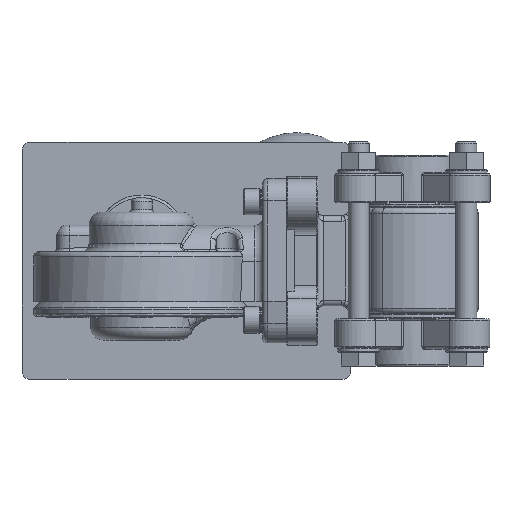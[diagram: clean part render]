
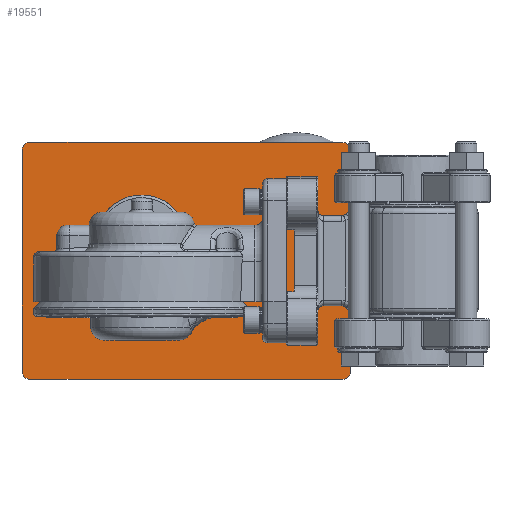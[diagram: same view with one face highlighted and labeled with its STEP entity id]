
A CAD part, left-side view. The second image highlights one B-rep face of the part: STEP entity #19551.
In plain terms, the highlighted planar face has unit normal (-1, 0, 0) as drawn and (0, 0, -1) by its records, which use the part's own axes.
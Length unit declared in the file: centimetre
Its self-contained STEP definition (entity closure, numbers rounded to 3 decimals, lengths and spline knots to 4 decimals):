
#3441=VECTOR('',#25259,1.);
#3442=VECTOR('',#25260,1.);
#3443=VECTOR('',#25263,1.);
#3444=VECTOR('',#25266,1.);
#3445=VECTOR('',#25269,1.);
#3446=VECTOR('',#25272,1.);
#3447=VECTOR('',#25275,1.);
#4576=LINE('',#44477,#3441);
#4577=LINE('',#44479,#3442);
#4578=LINE('',#44483,#3443);
#4579=LINE('',#44487,#3444);
#4580=LINE('',#44491,#3445);
#4581=LINE('',#44496,#3446);
#4582=LINE('',#44500,#3447);
#5778=PLANE('',#21256);
#7307=VERTEX_POINT('',#44462);
#7309=VERTEX_POINT('',#44467);
#7311=VERTEX_POINT('',#44472);
#7312=VERTEX_POINT('',#44475);
#7313=VERTEX_POINT('',#44476);
#7314=VERTEX_POINT('',#44478);
#7315=VERTEX_POINT('',#44480);
#7316=VERTEX_POINT('',#44482);
#7317=VERTEX_POINT('',#44484);
#7318=VERTEX_POINT('',#44486);
#7319=VERTEX_POINT('',#44488);
#7320=VERTEX_POINT('',#44490);
#7321=VERTEX_POINT('',#44492);
#7322=VERTEX_POINT('',#44494);
#7323=VERTEX_POINT('',#44495);
#7324=VERTEX_POINT('',#44497);
#7325=VERTEX_POINT('',#44499);
#8268=CIRCLE('',#21249,0.3019);
#8270=CIRCLE('',#21252,0.3019);
#8272=CIRCLE('',#21255,0.8983);
#8273=CIRCLE('',#21257,0.2);
#8274=CIRCLE('',#21258,0.3);
#8275=CIRCLE('',#21259,0.3);
#8276=CIRCLE('',#21260,0.3);
#8277=CIRCLE('',#21261,0.3);
#8278=CIRCLE('',#21262,0.2);
#10626=EDGE_CURVE('',#7307,#7307,#8268,.T.);
#10628=EDGE_CURVE('',#7309,#7309,#8270,.T.);
#10630=EDGE_CURVE('',#7311,#7311,#8272,.T.);
#10631=EDGE_CURVE('',#7312,#7313,#8273,.T.);
#10632=EDGE_CURVE('',#7312,#7314,#4576,.T.);
#10633=EDGE_CURVE('',#7315,#7314,#4577,.T.);
#10634=EDGE_CURVE('',#7316,#7315,#8274,.T.);
#10635=EDGE_CURVE('',#7317,#7316,#4578,.T.);
#10636=EDGE_CURVE('',#7318,#7317,#8275,.T.);
#10637=EDGE_CURVE('',#7319,#7318,#4579,.T.);
#10638=EDGE_CURVE('',#7320,#7319,#8276,.T.);
#10639=EDGE_CURVE('',#7321,#7320,#4580,.T.);
#10640=EDGE_CURVE('',#7322,#7321,#8277,.T.);
#10641=EDGE_CURVE('',#7323,#7322,#4577,.T.);
#10642=EDGE_CURVE('',#7323,#7324,#4581,.T.);
#10643=EDGE_CURVE('',#7325,#7324,#8278,.T.);
#10644=EDGE_CURVE('',#7325,#7313,#4582,.T.);
#15407=ORIENTED_EDGE('',*,*,#10626,.T.);
#15408=ORIENTED_EDGE('',*,*,#10628,.T.);
#15409=ORIENTED_EDGE('',*,*,#10630,.T.);
#15410=ORIENTED_EDGE('',*,*,#10631,.F.);
#15411=ORIENTED_EDGE('',*,*,#10632,.T.);
#15412=ORIENTED_EDGE('',*,*,#10633,.F.);
#15413=ORIENTED_EDGE('',*,*,#10634,.F.);
#15414=ORIENTED_EDGE('',*,*,#10635,.F.);
#15415=ORIENTED_EDGE('',*,*,#10636,.F.);
#15416=ORIENTED_EDGE('',*,*,#10637,.F.);
#15417=ORIENTED_EDGE('',*,*,#10638,.F.);
#15418=ORIENTED_EDGE('',*,*,#10639,.F.);
#15419=ORIENTED_EDGE('',*,*,#10640,.F.);
#15420=ORIENTED_EDGE('',*,*,#10641,.F.);
#15421=ORIENTED_EDGE('',*,*,#10642,.T.);
#15422=ORIENTED_EDGE('',*,*,#10643,.F.);
#15423=ORIENTED_EDGE('',*,*,#10644,.T.);
#17047=EDGE_LOOP('',(#15407));
#17048=EDGE_LOOP('',(#15408));
#17049=EDGE_LOOP('',(#15409));
#17050=EDGE_LOOP('',(#15410,#15411,#15412,#15413,#15414,#15415,#15416,#15417,
#15418,#15419,#15420,#15421,#15422,#15423));
#18415=FACE_BOUND('',#17047,.T.);
#18416=FACE_BOUND('',#17048,.T.);
#18417=FACE_BOUND('',#17049,.T.);
#18418=FACE_BOUND('',#17050,.T.);
#19551=ADVANCED_FACE('',(#18415,#18416,#18417,#18418),#5778,.F.);
#21249=AXIS2_PLACEMENT_3D('',#44461,#25242,#25243);
#21252=AXIS2_PLACEMENT_3D('',#44466,#25248,#25249);
#21255=AXIS2_PLACEMENT_3D('',#44471,#25254,#25255);
#21256=AXIS2_PLACEMENT_3D('',#44473,#25256,$);
#21257=AXIS2_PLACEMENT_3D('',#44474,#25257,#25258);
#21258=AXIS2_PLACEMENT_3D('',#44481,#25261,#25262);
#21259=AXIS2_PLACEMENT_3D('',#44485,#25264,#25265);
#21260=AXIS2_PLACEMENT_3D('',#44489,#25267,#25268);
#21261=AXIS2_PLACEMENT_3D('',#44493,#25270,#25271);
#21262=AXIS2_PLACEMENT_3D('',#44498,#25273,#25274);
#25242=DIRECTION('',(0.,0.,1.));
#25243=DIRECTION('',(0.302,0.,0.));
#25248=DIRECTION('',(0.,0.,1.));
#25249=DIRECTION('',(0.302,0.,0.));
#25254=DIRECTION('',(0.,0.,1.));
#25255=DIRECTION('',(0.898,0.,0.));
#25256=DIRECTION('',(0.,0.,1.));
#25257=DIRECTION('',(0.,0.,1.));
#25258=DIRECTION('',(-0.141,-0.141,0.));
#25259=DIRECTION('',(0.,1.,0.));
#25260=DIRECTION('',(1.,0.,0.));
#25261=DIRECTION('',(0.,0.,1.));
#25262=DIRECTION('',(-0.212,-0.212,0.));
#25263=DIRECTION('',(0.,-1.,0.));
#25264=DIRECTION('',(0.,0.,1.));
#25265=DIRECTION('',(-0.212,0.212,0.));
#25266=DIRECTION('',(-1.,0.,0.));
#25267=DIRECTION('',(0.,0.,1.));
#25268=DIRECTION('',(0.212,0.212,0.));
#25269=DIRECTION('',(0.,1.,0.));
#25270=DIRECTION('',(0.,0.,1.));
#25271=DIRECTION('',(0.212,-0.212,0.));
#25272=DIRECTION('',(0.,-1.,0.));
#25273=DIRECTION('',(0.,0.,1.));
#25274=DIRECTION('',(0.141,-0.141,0.));
#25275=DIRECTION('',(-1.,0.,0.));
#44461=CARTESIAN_POINT('',(-5.25,10.45,0.));
#44462=CARTESIAN_POINT('',(-5.5519,10.45,0.));
#44466=CARTESIAN_POINT('',(-5.25,2.95,0.));
#44467=CARTESIAN_POINT('',(-5.5519,2.95,0.));
#44471=CARTESIAN_POINT('',(-5.25,7.95,0.));
#44472=CARTESIAN_POINT('',(-6.1483,7.95,0.));
#44473=CARTESIAN_POINT('',(-4.5,6.25,0.));
#44474=CARTESIAN_POINT('',(-7.7,-0.2,0.));
#44475=CARTESIAN_POINT('',(-7.9,-0.2,0.));
#44476=CARTESIAN_POINT('',(-7.7,-0.4,0.));
#44477=CARTESIAN_POINT('',(-7.9,3.042,0.));
#44478=CARTESIAN_POINT('',(-7.9,0.,0.));
#44479=CARTESIAN_POINT('',(-9.,0.,0.));
#44480=CARTESIAN_POINT('',(-8.7,0.,0.));
#44481=CARTESIAN_POINT('',(-8.7,0.3,0.));
#44482=CARTESIAN_POINT('',(-9.,0.3,0.));
#44483=CARTESIAN_POINT('',(-9.,12.5,0.));
#44484=CARTESIAN_POINT('',(-9.,12.2,0.));
#44485=CARTESIAN_POINT('',(-8.7,12.2,0.));
#44486=CARTESIAN_POINT('',(-8.7,12.5,0.));
#44487=CARTESIAN_POINT('',(0.,12.5,0.));
#44488=CARTESIAN_POINT('',(-0.3,12.5,0.));
#44489=CARTESIAN_POINT('',(-0.3,12.2,0.));
#44490=CARTESIAN_POINT('',(0.,12.2,0.));
#44491=CARTESIAN_POINT('',(0.,0.,0.));
#44492=CARTESIAN_POINT('',(0.,0.3,0.));
#44493=CARTESIAN_POINT('',(-0.3,0.3,0.));
#44494=CARTESIAN_POINT('',(-0.3,0.,0.));
#44495=CARTESIAN_POINT('',(-1.1,0.,0.));
#44496=CARTESIAN_POINT('',(-1.1,3.042,0.));
#44497=CARTESIAN_POINT('',(-1.1,-0.2,0.));
#44498=CARTESIAN_POINT('',(-1.3,-0.2,0.));
#44499=CARTESIAN_POINT('',(-1.3,-0.4,0.));
#44500=CARTESIAN_POINT('',(-4.5,-0.4,0.));
